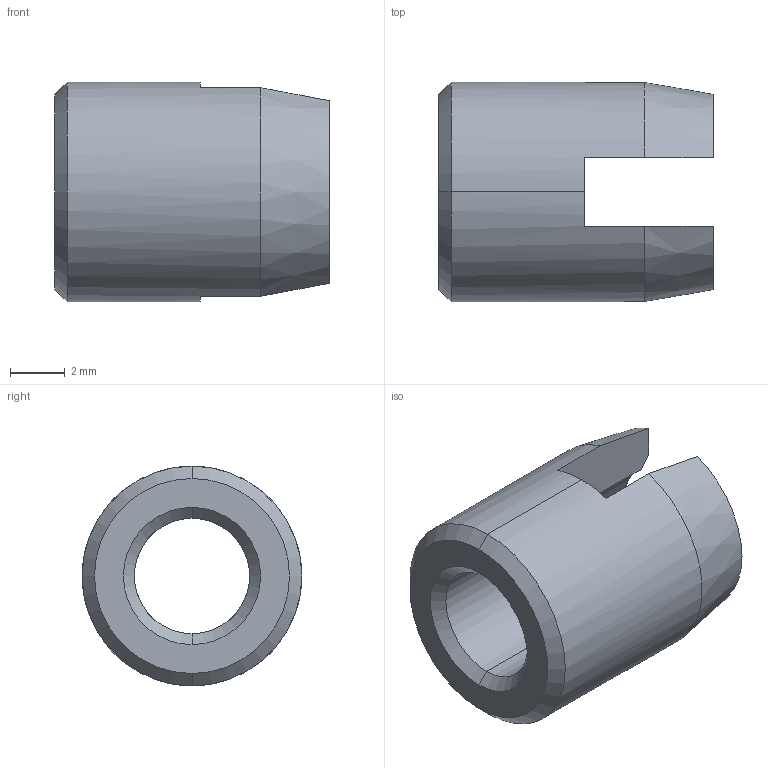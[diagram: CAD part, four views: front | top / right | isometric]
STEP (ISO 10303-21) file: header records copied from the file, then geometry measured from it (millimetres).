
FILE_DESCRIPTION (( 'STEP AP203' ), '1' );
FILE_NAME ('FSUK-SCR-M05.STEP', '2021-04-14T09:49:11', ( '' ), ( '' ), 'SwSTEP 2.0', 'SolidWorks 2021', '' );
FILE_SCHEMA (( 'CONFIG_CONTROL_DESIGN' ));
Length unit declared in the file: millimetre
Products named in the file (1): FSUK-SCR-M05
Bounding box: 10 x 8 x 8 mm (x, y, z)
Volume: 302.9 mm3; surface area: 421.4 mm2
Topology: 1 solids, 1 shells, 21 faces, 56 edges, 36 vertices
Faces by surface type: plane 9, cone 8, cylinder 4
Entity records: 751 total; most frequent: CARTESIAN_POINT 138, DIRECTION 116, ORIENTED_EDGE 112, EDGE_CURVE 56, AXIS2_PLACEMENT_3D 46, VERTEX_POINT 36, LINE 24, CIRCLE 24
